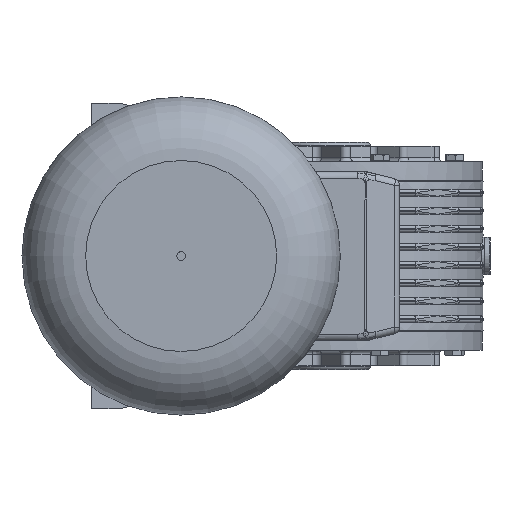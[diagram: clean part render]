
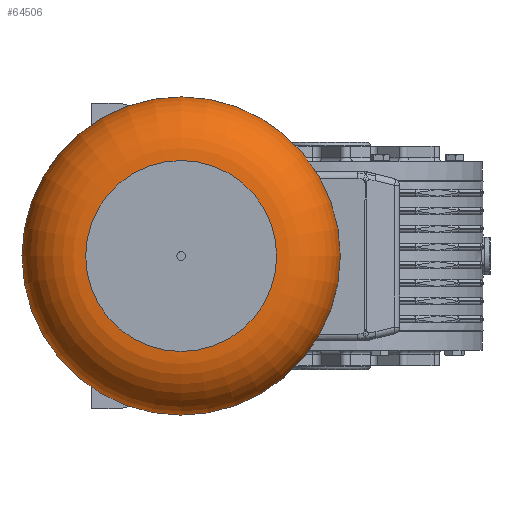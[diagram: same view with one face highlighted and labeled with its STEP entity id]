
A CAD part, left-side view. The second image highlights one B-rep face of the part: STEP entity #64506.
In plain terms, the highlighted toroidal (fillet/blend) face has major radius 55.5 mm and minor radius 37 mm.
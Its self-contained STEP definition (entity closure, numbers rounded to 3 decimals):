
#64479=CARTESIAN_POINT('',(399.,0.0,0.0));
#64480=DIRECTION('',(1.0,0.0,0.0));
#64481=DIRECTION('',(0.0,0.0,-1.0));
#64482=AXIS2_PLACEMENT_3D('',#64479,#64480,#64481);
#64483=TOROIDAL_SURFACE('',#64482,55.5,37.0);
#64484=CARTESIAN_POINT('',(436.0,55.5,0.0));
#64485=VERTEX_POINT('',#64484);
#64486=CARTESIAN_POINT('',(436.0,0.0,0.0));
#64487=DIRECTION('',(1.0,0.0,0.0));
#64488=DIRECTION('',(0.0,1.0,0.0));
#64489=AXIS2_PLACEMENT_3D('',#64486,#64487,#64488);
#64490=CIRCLE('',#64489,55.5);
#64491=EDGE_CURVE('',#64485,#64485,#64490,.T.);
#64492=ORIENTED_EDGE('',*,*,#64491,.F.);
#64493=EDGE_LOOP('',(#64492));
#64494=FACE_OUTER_BOUND('',#64493,.T.);
#64495=CARTESIAN_POINT('',(399.,92.5,0.0));
#64496=VERTEX_POINT('',#64495);
#64497=CARTESIAN_POINT('',(399.,0.0,0.0));
#64498=DIRECTION('',(1.0,0.0,0.0));
#64499=DIRECTION('',(0.0,1.0,0.0));
#64500=AXIS2_PLACEMENT_3D('',#64497,#64498,#64499);
#64501=CIRCLE('',#64500,92.5);
#64502=EDGE_CURVE('',#64496,#64496,#64501,.T.);
#64503=ORIENTED_EDGE('',*,*,#64502,.T.);
#64504=EDGE_LOOP('',(#64503));
#64505=FACE_BOUND('',#64504,.T.);
#64506=ADVANCED_FACE('',(#64494,#64505),#64483,.T.);
